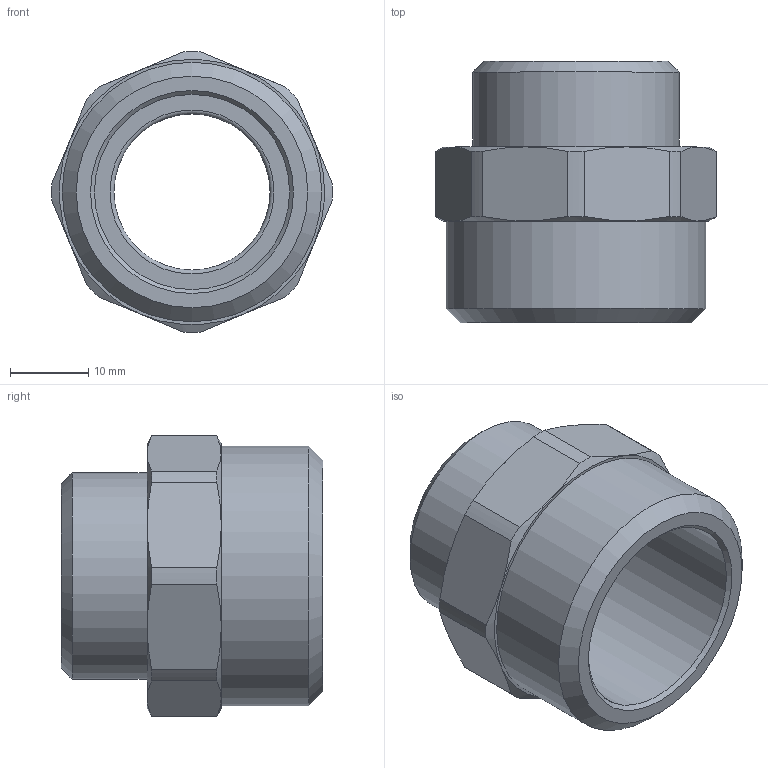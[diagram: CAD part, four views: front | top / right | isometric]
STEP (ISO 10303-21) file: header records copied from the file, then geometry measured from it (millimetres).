
FILE_DESCRIPTION(('STEP AP203'), '1');
FILE_NAME('ÂÐ.753157.003 - VTr.580.N.0605 Íèïïåëü G1xG3-4', '2024-07-03T10:15:24', ('Boss'), (''), 'C3D Converter', 'C3D Toolkit', '');
FILE_SCHEMA(('CONFIG_CONTROL_DESIGN'));
Length unit declared in the file: millimetre
Products named in the file (1): ВР.753157.003
Bounding box: 35.99 x 33.5 x 35.99 mm (x, y, z)
Volume: 12052.7 mm3; surface area: 6747.7 mm2
Topology: 1 solids, 1 shells, 43 faces, 96 edges, 58 vertices
Faces by surface type: cone 17, plane 13, cylinder 12, torus 1
Full cylindrical faces by diameter (mm): 20 x1, 25 x1, 26.441 x1, 33.249 x1
Entity records: 1606 total; most frequent: CARTESIAN_POINT 675, DIRECTION 188, ORIENTED_EDGE 174, EDGE_CURVE 87, AXIS2_PLACEMENT_3D 86, VERTEX_POINT 58, EDGE_LOOP 57, ADVANCED_FACE 43
